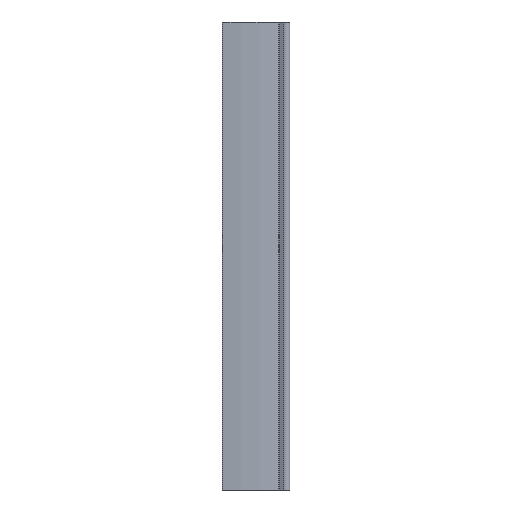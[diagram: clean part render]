
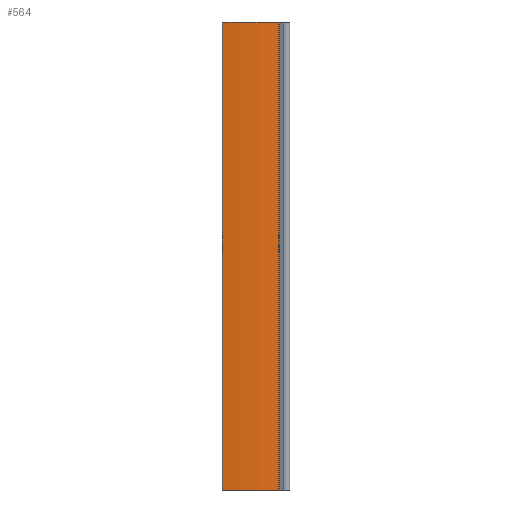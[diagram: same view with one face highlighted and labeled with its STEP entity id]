
A CAD part, left-side view. The second image highlights one B-rep face of the part: STEP entity #564.
In plain terms, the highlighted cylindrical face has radius 101.8 mm (diameter 203.6 mm), a partial arc.
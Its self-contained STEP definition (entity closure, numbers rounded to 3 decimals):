
#30=CIRCLE('',#618,101.8);
#31=CIRCLE('',#619,101.8);
#57=CYLINDRICAL_SURFACE('',#617,101.8);
#108=ORIENTED_EDGE('',*,*,#267,.T.);
#109=ORIENTED_EDGE('',*,*,#268,.F.);
#110=ORIENTED_EDGE('',*,*,#269,.F.);
#111=ORIENTED_EDGE('',*,*,#265,.T.);
#265=EDGE_CURVE('',#341,#340,#396,.T.);
#267=EDGE_CURVE('',#340,#342,#30,.T.);
#268=EDGE_CURVE('',#343,#342,#397,.T.);
#269=EDGE_CURVE('',#341,#343,#31,.T.);
#340=VERTEX_POINT('',#897);
#341=VERTEX_POINT('',#899);
#342=VERTEX_POINT('',#903);
#343=VERTEX_POINT('',#905);
#396=LINE('',#898,#448);
#397=LINE('',#904,#449);
#448=VECTOR('',#719,1000.);
#449=VECTOR('',#726,1000.);
#490=EDGE_LOOP('',(#108,#109,#110,#111));
#520=FACE_BOUND('',#490,.T.);
#564=ADVANCED_FACE('',(#520),#57,.T.);
#617=AXIS2_PLACEMENT_3D('',#901,#722,#723);
#618=AXIS2_PLACEMENT_3D('',#902,#724,#725);
#619=AXIS2_PLACEMENT_3D('',#906,#727,#728);
#719=DIRECTION('',(0.,0.,1.));
#722=DIRECTION('',(0.,0.,1.));
#723=DIRECTION('',(1.,0.,0.));
#724=DIRECTION('',(0.,0.,-1.));
#725=DIRECTION('',(-1.,0.,0.));
#726=DIRECTION('',(0.,0.,1.));
#727=DIRECTION('',(0.,0.,-1.));
#728=DIRECTION('',(-1.,0.,0.));
#897=CARTESIAN_POINT('',(-0.383,2.986,0.));
#898=CARTESIAN_POINT('',(-0.383,2.986,-200.));
#899=CARTESIAN_POINT('',(-0.383,2.986,-200.));
#901=CARTESIAN_POINT('',(100.949,12.735,-200.));
#902=CARTESIAN_POINT('',(100.949,12.735,0.));
#903=CARTESIAN_POINT('',(0.149,26.962,0.));
#904=CARTESIAN_POINT('',(0.149,26.962,-200.));
#905=CARTESIAN_POINT('',(0.149,26.962,-200.));
#906=CARTESIAN_POINT('',(100.949,12.735,-200.));
